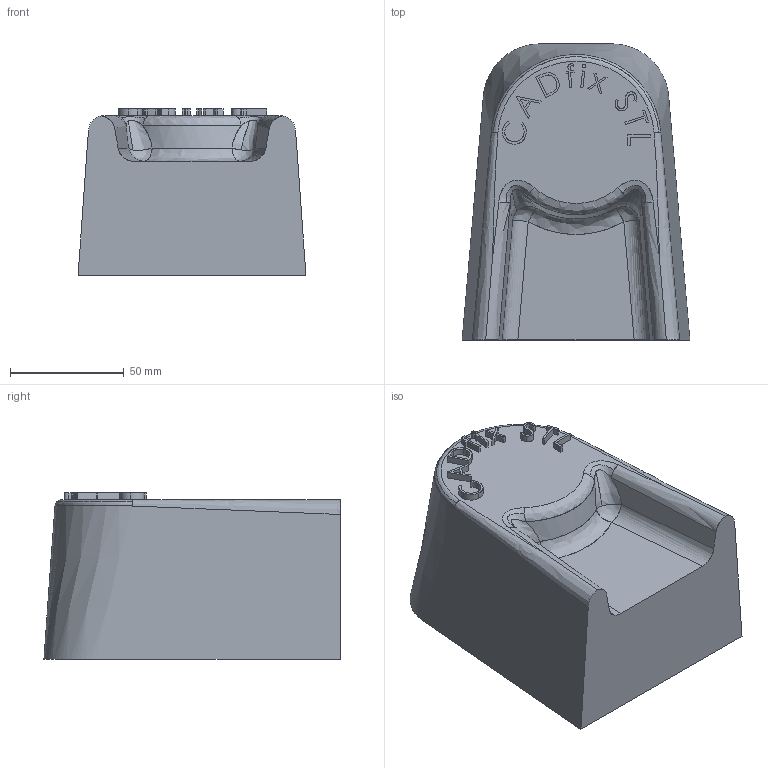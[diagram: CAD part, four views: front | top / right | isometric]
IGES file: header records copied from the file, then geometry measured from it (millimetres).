
Start section:  * IGES Dump file written on 12 Aug 2021  *  * IGES Dump file:  * C:\d4\repo\demos\_masters\STL\test\test_cf.igs  *  * Created from part:  * EXP1  *  * Contained in model:  * C:\d4\repo\demos\_masters\STL\test\test  *
Global section: file name: C:\d4\repo\demos\_masters\STL\test\test_cf.igs; native system: CADfix; preprocessor:   12/42106; date: 20210812.161537; units: millimetre
Bounding box: 100 x 130 x 73 mm (x, y, z)
Surface area: 50424.1 mm2 (no closed solid volume)
Topology: 0 solids, 0 shells, 142 faces, 978 edges, 978 vertices
Faces by surface type: bspline 142
